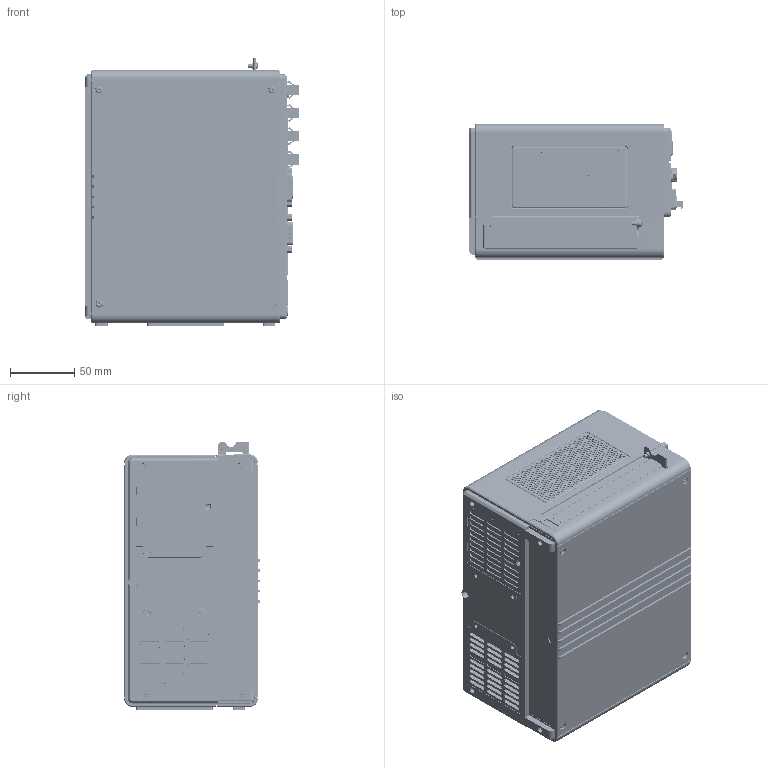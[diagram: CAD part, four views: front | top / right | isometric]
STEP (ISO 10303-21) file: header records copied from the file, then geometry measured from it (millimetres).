
FILE_DESCRIPTION((''),'2;1');
FILE_NAME('000-VC3000H1','2025-11-18T16:58:21',('yangxiaobing6'),(''),'CREO PARAMETRIC BY PTC INC, 2020044','CREO PARAMETRIC BY PTC INC, 2020044','');
FILE_SCHEMA(('CONFIG_CONTROL_DESIGN','SHAPE_APPEARANCE_LAYERS_GROUPS'));
Products named in the file (1): 000-VC3000H1
Bounding box: 166 x 105.5 x 208.5 mm (x, y, z)
Volume: 2922444.7 mm3; surface area: 398601.1 mm2
Topology: 12 solids, 213 shells, 24999 faces, 70790 edges, 45472 vertices
Faces by surface type: plane 16058, cylinder 7348, torus 534, bspline 472, cone 325, sphere 156, extrusion 91, revolution 15
Entity records: 997832 total; most frequent: CARTESIAN_POINT 203009, ORIENTED_EDGE 140455, DIRECTION 129193, EDGE_CURVE 70638, VECTOR 51040, LINE 50949, VERTEX_POINT 45469, AXIS2_PLACEMENT_3D 39069
